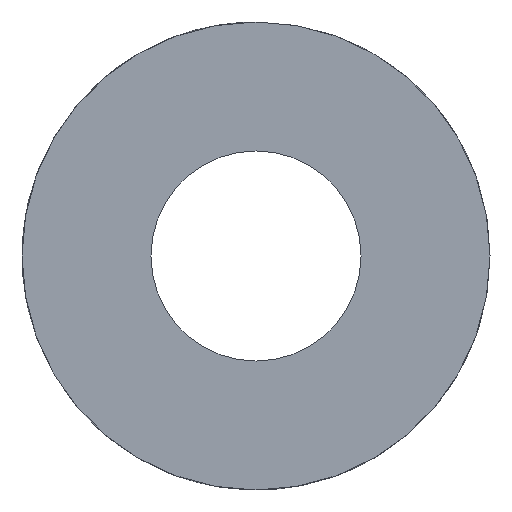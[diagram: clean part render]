
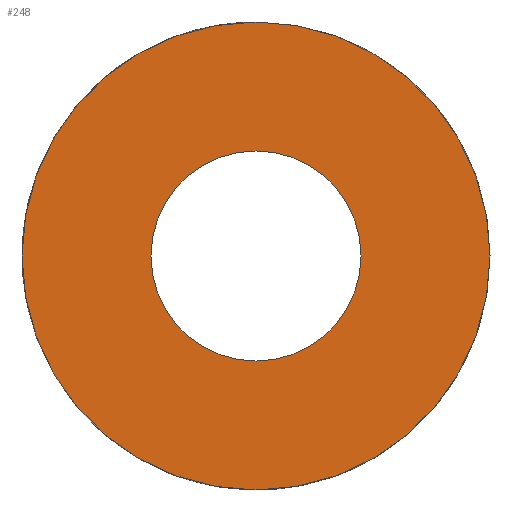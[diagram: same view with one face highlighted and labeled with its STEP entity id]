
A CAD part, front view. The second image highlights one B-rep face of the part: STEP entity #248.
In plain terms, the highlighted planar face has unit normal (0, -1, 0).
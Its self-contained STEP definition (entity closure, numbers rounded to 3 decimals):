
#78 = CYLINDRICAL_SURFACE('',#79,2.45);
#79 = AXIS2_PLACEMENT_3D('',#80,#81,#82);
#80 = CARTESIAN_POINT('',(60.,24.,0.));
#81 = DIRECTION('',(0.,1.,0.));
#82 = DIRECTION('',(0.,-0.,1.));
#199 = VERTEX_POINT('',#200);
#200 = CARTESIAN_POINT('',(60.,24.,2.45));
#221 = EDGE_CURVE('',#199,#199,#222,.T.);
#222 = SURFACE_CURVE('',#223,(#228,#235),.PCURVE_S1.);
#223 = CIRCLE('',#224,2.45);
#224 = AXIS2_PLACEMENT_3D('',#225,#226,#227);
#225 = CARTESIAN_POINT('',(60.,24.,0.));
#226 = DIRECTION('',(0.,1.,0.));
#227 = DIRECTION('',(0.,-0.,1.));
#228 = PCURVE('',#78,#229);
#229 = DEFINITIONAL_REPRESENTATION('',(#230),#234);
#230 = LINE('',#231,#232);
#231 = CARTESIAN_POINT('',(0.,0.));
#232 = VECTOR('',#233,1.);
#233 = DIRECTION('',(1.,0.));
#234 = ( GEOMETRIC_REPRESENTATION_CONTEXT(2) 
PARAMETRIC_REPRESENTATION_CONTEXT() REPRESENTATION_CONTEXT('2D SPACE',''
  ) );
#235 = PCURVE('',#236,#241);
#236 = PLANE('',#237);
#237 = AXIS2_PLACEMENT_3D('',#238,#239,#240);
#238 = CARTESIAN_POINT('',(60.,24.,0.));
#239 = DIRECTION('',(0.,1.,0.));
#240 = DIRECTION('',(0.,-0.,1.));
#241 = DEFINITIONAL_REPRESENTATION('',(#242),#246);
#242 = CIRCLE('',#243,2.45);
#243 = AXIS2_PLACEMENT_2D('',#244,#245);
#244 = CARTESIAN_POINT('',(0.,0.));
#245 = DIRECTION('',(1.,0.));
#246 = ( GEOMETRIC_REPRESENTATION_CONTEXT(2) 
PARAMETRIC_REPRESENTATION_CONTEXT() REPRESENTATION_CONTEXT('2D SPACE',''
  ) );
#248 = ADVANCED_FACE('',(#249,#252),#236,.F.);
#249 = FACE_BOUND('',#250,.F.);
#250 = EDGE_LOOP('',(#251));
#251 = ORIENTED_EDGE('',*,*,#221,.T.);
#252 = FACE_BOUND('',#253,.F.);
#253 = EDGE_LOOP('',(#254));
#254 = ORIENTED_EDGE('',*,*,#255,.F.);
#255 = EDGE_CURVE('',#256,#256,#258,.T.);
#256 = VERTEX_POINT('',#257);
#257 = CARTESIAN_POINT('',(60.,24.,1.1));
#258 = SURFACE_CURVE('',#259,(#264,#271),.PCURVE_S1.);
#259 = CIRCLE('',#260,1.1);
#260 = AXIS2_PLACEMENT_3D('',#261,#262,#263);
#261 = CARTESIAN_POINT('',(60.,24.,0.));
#262 = DIRECTION('',(0.,1.,0.));
#263 = DIRECTION('',(0.,-0.,1.));
#264 = PCURVE('',#236,#265);
#265 = DEFINITIONAL_REPRESENTATION('',(#266),#270);
#266 = CIRCLE('',#267,1.1);
#267 = AXIS2_PLACEMENT_2D('',#268,#269);
#268 = CARTESIAN_POINT('',(0.,0.));
#269 = DIRECTION('',(1.,0.));
#270 = ( GEOMETRIC_REPRESENTATION_CONTEXT(2) 
PARAMETRIC_REPRESENTATION_CONTEXT() REPRESENTATION_CONTEXT('2D SPACE',''
  ) );
#271 = PCURVE('',#272,#277);
#272 = CYLINDRICAL_SURFACE('',#273,1.1);
#273 = AXIS2_PLACEMENT_3D('',#274,#275,#276);
#274 = CARTESIAN_POINT('',(60.,23.,0.));
#275 = DIRECTION('',(0.,1.,0.));
#276 = DIRECTION('',(0.,-0.,1.));
#277 = DEFINITIONAL_REPRESENTATION('',(#278),#282);
#278 = LINE('',#279,#280);
#279 = CARTESIAN_POINT('',(0.,1.));
#280 = VECTOR('',#281,1.);
#281 = DIRECTION('',(1.,0.));
#282 = ( GEOMETRIC_REPRESENTATION_CONTEXT(2) 
PARAMETRIC_REPRESENTATION_CONTEXT() REPRESENTATION_CONTEXT('2D SPACE',''
  ) );
